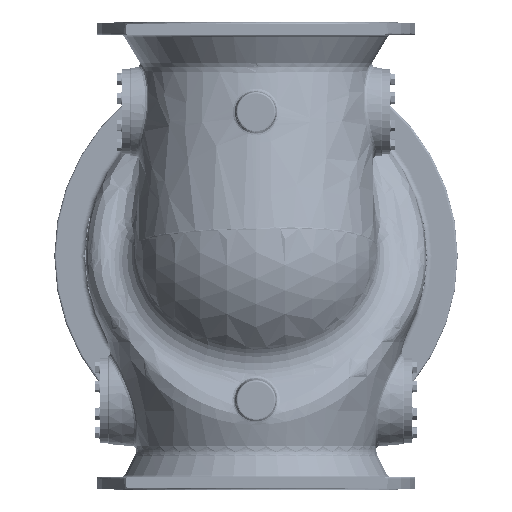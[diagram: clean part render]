
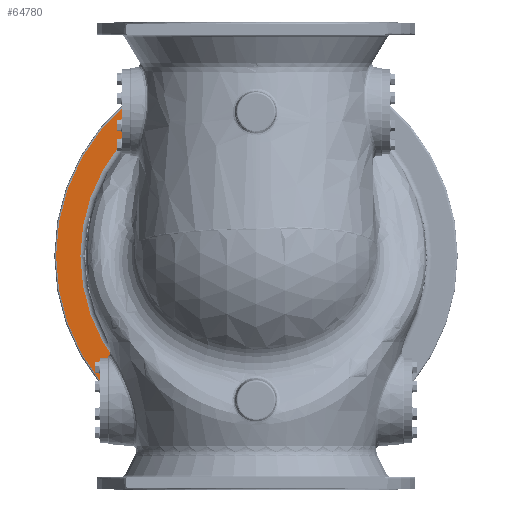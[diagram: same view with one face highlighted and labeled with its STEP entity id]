
A CAD part, front view. The second image highlights one B-rep face of the part: STEP entity #64780.
In plain terms, the highlighted planar face has unit normal (0, -1, 0).
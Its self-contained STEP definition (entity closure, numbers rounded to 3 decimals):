
#3718=LINE('',#95632,#6767);
#3719=LINE('',#95635,#6768);
#6767=VECTOR('',#76550,85.894);
#6768=VECTOR('',#76553,85.894);
#13506=FACE_OUTER_BOUND('',#17920,.T.);
#17920=EDGE_LOOP('',(#43095,#43096,#43097,#43098));
#23029=CIRCLE('',#69338,704.85);
#23030=CIRCLE('',#69339,618.998);
#26523=VERTEX_POINT('',#95628);
#26524=VERTEX_POINT('',#95629);
#26525=VERTEX_POINT('',#95631);
#26526=VERTEX_POINT('',#95633);
#32828=EDGE_CURVE('',#26523,#26524,#23029,.T.);
#32829=EDGE_CURVE('',#26523,#26525,#3718,.F.);
#32830=EDGE_CURVE('',#26525,#26526,#23030,.T.);
#32831=EDGE_CURVE('',#26526,#26524,#3719,.F.);
#43095=ORIENTED_EDGE('',*,*,#32828,.F.);
#43096=ORIENTED_EDGE('',*,*,#32829,.T.);
#43097=ORIENTED_EDGE('',*,*,#32830,.T.);
#43098=ORIENTED_EDGE('',*,*,#32831,.T.);
#63297=PLANE('',#69337);
#64780=ADVANCED_FACE('',(#13506),#63297,.F.);
#69337=AXIS2_PLACEMENT_3D('',#95627,#76546,#76547);
#69338=AXIS2_PLACEMENT_3D('',#95630,#76548,#76549);
#69339=AXIS2_PLACEMENT_3D('',#95634,#76551,#76552);
#76546=DIRECTION('center_axis',(0.,1.,0.));
#76547=DIRECTION('ref_axis',(1.,0.,0.));
#76548=DIRECTION('center_axis',(0.,1.,0.));
#76549=DIRECTION('ref_axis',(1.,0.,0.));
#76550=DIRECTION('',(0.,0.,-1.));
#76551=DIRECTION('center_axis',(0.,1.,0.));
#76552=DIRECTION('ref_axis',(1.,0.,0.));
#76553=DIRECTION('',(0.,0.,-1.));
#95627=CARTESIAN_POINT('Origin',(0.,-33.325,
704.85));
#95628=CARTESIAN_POINT('',(-20.574,-33.325,-704.55));
#95629=CARTESIAN_POINT('',(-20.574,-33.325,704.55));
#95630=CARTESIAN_POINT('Origin',(0.,-33.325,
0.));
#95631=CARTESIAN_POINT('',(-20.574,-33.325,-618.656));
#95632=CARTESIAN_POINT('',(-20.574,-33.325,-618.656));
#95633=CARTESIAN_POINT('',(-20.574,-33.325,618.656));
#95634=CARTESIAN_POINT('Origin',(0.,-33.325,
0.));
#95635=CARTESIAN_POINT('',(-20.574,-33.325,704.55));
